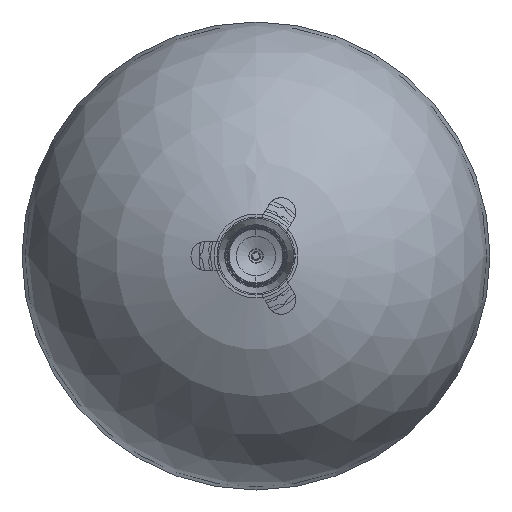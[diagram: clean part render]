
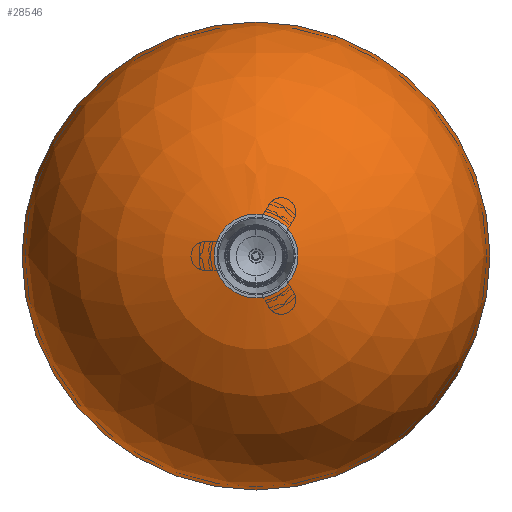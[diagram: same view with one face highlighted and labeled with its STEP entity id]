
A CAD part, front view. The second image highlights one B-rep face of the part: STEP entity #28546.
In plain terms, the highlighted spherical face has radius 80.9 mm.
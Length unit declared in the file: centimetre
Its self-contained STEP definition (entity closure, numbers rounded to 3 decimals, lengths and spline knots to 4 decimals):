
#2978=SPHERICAL_SURFACE('',#30202,8.09);
#3665=FACE_OUTER_BOUND('',#5277,.T.);
#5277=EDGE_LOOP('',(#17612,#17613,#17614,#17615));
#8937=CIRCLE('',#30195,1.45);
#8941=CIRCLE('',#30201,8.09);
#8942=CIRCLE('',#30203,8.09);
#10140=VERTEX_POINT('',#39596);
#10143=VERTEX_POINT('',#39606);
#13054=EDGE_CURVE('',#10140,#10140,#8937,.T.);
#13059=EDGE_CURVE('',#10143,#10143,#8941,.T.);
#13060=EDGE_CURVE('',#10143,#10140,#8942,.T.);
#17612=ORIENTED_EDGE('',*,*,#13059,.F.);
#17613=ORIENTED_EDGE('',*,*,#13060,.T.);
#17614=ORIENTED_EDGE('',*,*,#13054,.T.);
#17615=ORIENTED_EDGE('',*,*,#13060,.F.);
#28546=ADVANCED_FACE('',(#3665),#2978,.T.);
#30195=AXIS2_PLACEMENT_3D('',#39597,#33031,#33032);
#30201=AXIS2_PLACEMENT_3D('',#39607,#33044,#33045);
#30202=AXIS2_PLACEMENT_3D('',#39608,#33046,#33047);
#30203=AXIS2_PLACEMENT_3D('',#39609,#33048,#33049);
#33031=DIRECTION('center_axis',(0.,1.,0.));
#33032=DIRECTION('ref_axis',(0.,0.,
-1.));
#33044=DIRECTION('center_axis',(0.,1.,0.));
#33045=DIRECTION('ref_axis',(0.,0.,
-1.));
#33046=DIRECTION('center_axis',(0.,1.,0.));
#33047=DIRECTION('ref_axis',(0.,0.,
-1.));
#33048=DIRECTION('center_axis',(1.,0.,0.));
#33049=DIRECTION('ref_axis',(0.,0.,
1.));
#39596=CARTESIAN_POINT('',(0.,-8.0919,1.45));
#39597=CARTESIAN_POINT('Origin',(0.,-8.0919,
0.));
#39606=CARTESIAN_POINT('',(0.,-0.1329,8.09));
#39607=CARTESIAN_POINT('Origin',(0.,-0.1329,
0.));
#39608=CARTESIAN_POINT('Origin',(0.,-0.1329,
0.));
#39609=CARTESIAN_POINT('Origin',(0.,-0.1329,
0.));
